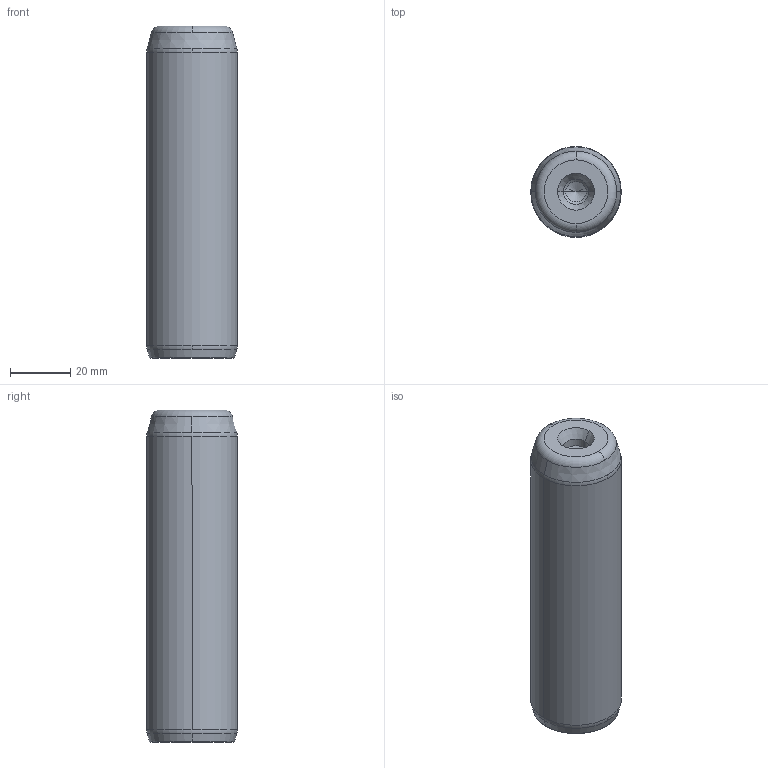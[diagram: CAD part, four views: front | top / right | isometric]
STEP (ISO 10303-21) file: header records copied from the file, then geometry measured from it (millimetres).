
FILE_DESCRIPTION((''),'2;1');
FILE_NAME('P10_030_110.stp','2008-12-23T14:58:07',(''),(''),'Mechanical Desktop 2009','Mechanical Desktop 2009',', , ');
FILE_SCHEMA(('CONFIG_CONTROL_DESIGN'));
Length unit declared in the file: millimetre
Products named in the file (5): Product; ProductAA; blmdl1; ProductA; blmdl1A
Assembly tree (2 placements, depth 3):
  Product
    ProductAA
      blmdl1
  ProductA
  blmdl1A
Bounding box: 30 x 30 x 110 mm (x, y, z)
Volume: 75600.6 mm3; surface area: 11950 mm2
Topology: 1 solids, 1 shells, 26 faces, 66 edges, 41 vertices
Faces by surface type: cone 10, torus 8, cylinder 6, plane 2
Entity records: 1012 total; most frequent: DIRECTION 170, CARTESIAN_POINT 134, ORIENTED_EDGE 128, AXIS2_PLACEMENT_3D 77, EDGE_CURVE 64, CIRCLE 48, VERTEX_POINT 41, EDGE_LOOP 27
